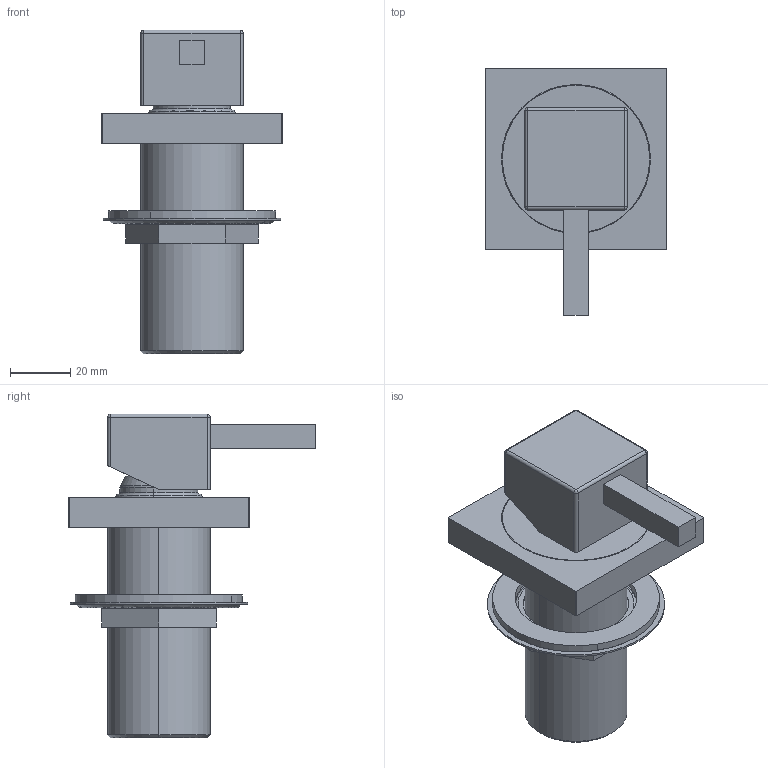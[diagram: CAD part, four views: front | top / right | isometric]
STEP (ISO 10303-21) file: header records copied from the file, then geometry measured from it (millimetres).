
FILE_DESCRIPTION (( 'STEP AP203' ), '1' );
FILE_NAME ('H4U25.STEP', '2016-11-10T13:18:09', ( '' ), ( '' ), 'SwSTEP 2.0', 'SolidWorks 2014', '' );
FILE_SCHEMA (( 'CONFIG_CONTROL_DESIGN' ));
Length unit declared in the file: millimetre
Products named in the file (16): TAPPHITO01; EU004_00; EU0120_0; FISSGECO001; eu01_dado_esa_x_codolo; GRANO M5x6; H4U25; OR45.69x2.62; eu01_flangia_sagomata; eu01_rondella_gomma_spugna; EU0105_0; CARTNUB001; EU0110_1; EU0010_0; EU0119_2; EU0104_1
Assembly tree (16 placements, depth 3):
  H4U25
    EU0010_0
    EU0105_0
    OR45.69x2.62
    EU0119_2
    EU0120_0
    CARTNUB001
    EU004_00
      GRANO M5x6  x2
      EU0104_1
      EU0110_1
      TAPPHITO01
    FISSGECO001
      eu01_flangia_sagomata
      eu01_rondella_gomma_spugna
      eu01_dado_esa_x_codolo
Bounding box: 60 x 82 x 107.6 mm (x, y, z)
Volume: 104855.2 mm3; surface area: 57244.9 mm2
Topology: 16 solids, 16 shells, 543 faces, 1268 edges, 783 vertices
Faces by surface type: plane 185, cylinder 175, cone 97, torus 42, bspline 40, sphere 4
Entity records: 19499 total; most frequent: CARTESIAN_POINT 5644, DIRECTION 2707, ORIENTED_EDGE 2436, EDGE_CURVE 1218, AXIS2_PLACEMENT_3D 1099, VERTEX_POINT 761, CIRCLE 592, EDGE_LOOP 591
